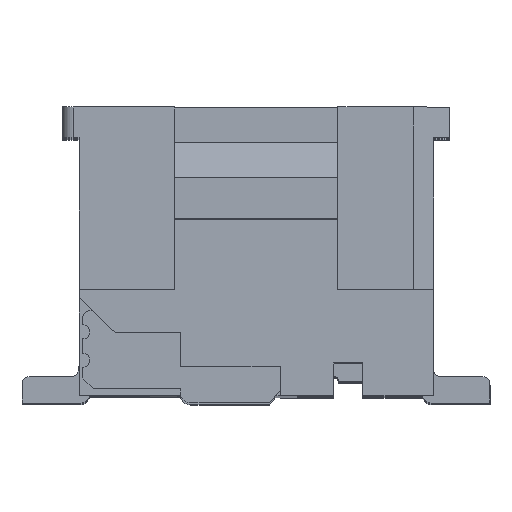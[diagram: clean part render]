
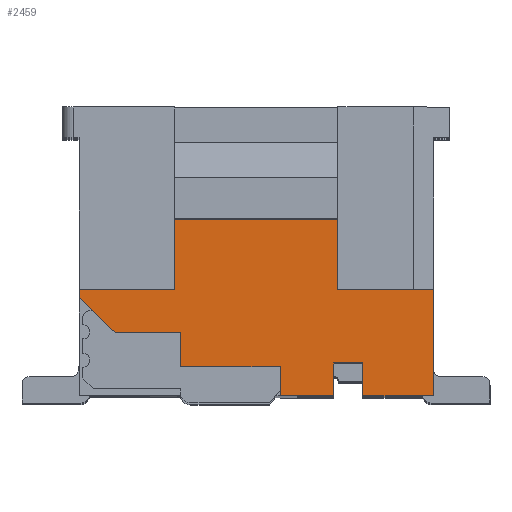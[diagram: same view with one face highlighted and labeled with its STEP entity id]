
A CAD part, top view. The second image highlights one B-rep face of the part: STEP entity #2459.
In plain terms, the highlighted planar face has unit normal (0, 0, 1).
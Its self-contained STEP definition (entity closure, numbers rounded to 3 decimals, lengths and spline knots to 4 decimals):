
#2459=ADVANCED_FACE('',(#6829),#4886,.F.);
#4886=PLANE('',#53395);
#6829=FACE_OUTER_BOUND('',#9325,.T.);
#9325=EDGE_LOOP('',(#13263,#13264,#13265,#13266,#13267,#13268,#13269,#13270,
#13271,#13272,#13273,#13274,#13275,#13276,#13277,#13278,#13279));
#13263=ORIENTED_EDGE('',*,*,#32868,.T.);
#13264=ORIENTED_EDGE('',*,*,#33209,.F.);
#13265=ORIENTED_EDGE('',*,*,#33277,.F.);
#13266=ORIENTED_EDGE('',*,*,#33213,.F.);
#13267=ORIENTED_EDGE('',*,*,#32858,.F.);
#13268=ORIENTED_EDGE('',*,*,#32856,.F.);
#13269=ORIENTED_EDGE('',*,*,#32854,.F.);
#13270=ORIENTED_EDGE('',*,*,#33119,.F.);
#13271=ORIENTED_EDGE('',*,*,#33278,.F.);
#13272=ORIENTED_EDGE('',*,*,#33123,.F.);
#13273=ORIENTED_EDGE('',*,*,#32852,.F.);
#13274=ORIENTED_EDGE('',*,*,#32849,.F.);
#13275=ORIENTED_EDGE('',*,*,#33276,.F.);
#13276=ORIENTED_EDGE('',*,*,#33279,.F.);
#13277=ORIENTED_EDGE('',*,*,#33280,.F.);
#13278=ORIENTED_EDGE('',*,*,#32861,.T.);
#13279=ORIENTED_EDGE('',*,*,#32842,.T.);
#27555=VERTEX_POINT('',#71919);
#27556=VERTEX_POINT('',#71921);
#27558=VERTEX_POINT('',#71927);
#27562=VERTEX_POINT('',#71934);
#27563=VERTEX_POINT('',#71938);
#27565=VERTEX_POINT('',#71944);
#27566=VERTEX_POINT('',#71946);
#27567=VERTEX_POINT('',#71950);
#27568=VERTEX_POINT('',#71954);
#27569=VERTEX_POINT('',#71960);
#27573=VERTEX_POINT('',#71974);
#27755=VERTEX_POINT('',#72488);
#27756=VERTEX_POINT('',#72492);
#27814=VERTEX_POINT('',#72665);
#27817=VERTEX_POINT('',#72673);
#27848=VERTEX_POINT('',#72790);
#27849=VERTEX_POINT('',#72796);
#32842=EDGE_CURVE('',#27556,#27555,#40492,.T.);
#32849=EDGE_CURVE('',#27562,#27558,#40499,.T.);
#32852=EDGE_CURVE('',#27558,#27563,#40502,.T.);
#32854=EDGE_CURVE('',#27565,#27566,#40504,.T.);
#32856=EDGE_CURVE('',#27566,#27567,#40506,.T.);
#32858=EDGE_CURVE('',#27567,#27568,#40508,.T.);
#32861=EDGE_CURVE('',#27569,#27556,#40511,.T.);
#32868=EDGE_CURVE('',#27555,#27573,#40518,.T.);
#33119=EDGE_CURVE('',#27755,#27565,#40721,.T.);
#33123=EDGE_CURVE('',#27563,#27756,#40725,.T.);
#33209=EDGE_CURVE('',#27814,#27573,#40809,.T.);
#33213=EDGE_CURVE('',#27568,#27817,#40813,.T.);
#33276=EDGE_CURVE('',#27848,#27562,#40876,.T.);
#33277=EDGE_CURVE('',#27817,#27814,#40877,.T.);
#33278=EDGE_CURVE('',#27756,#27755,#40878,.T.);
#33279=EDGE_CURVE('',#27849,#27848,#40879,.T.);
#33280=EDGE_CURVE('',#27569,#27849,#40880,.T.);
#40492=LINE('',#71920,#46899);
#40499=LINE('',#71935,#46906);
#40502=LINE('',#71941,#46909);
#40504=LINE('',#71945,#46911);
#40506=LINE('',#71949,#46913);
#40508=LINE('',#71953,#46915);
#40511=LINE('',#71959,#46918);
#40518=LINE('',#71973,#46925);
#40721=LINE('',#72489,#47128);
#40725=LINE('',#72497,#47132);
#40809=LINE('',#72664,#47216);
#40813=LINE('',#72672,#47220);
#40876=LINE('',#72791,#47283);
#40877=LINE('',#72793,#47284);
#40878=LINE('',#72794,#47285);
#40879=LINE('',#72795,#47286);
#40880=LINE('',#72797,#47287);
#46899=VECTOR('',#57756,1.);
#46906=VECTOR('',#57765,1.);
#46909=VECTOR('',#57770,1.);
#46911=VECTOR('',#57774,1.);
#46913=VECTOR('',#57778,1.);
#46915=VECTOR('',#57782,1.);
#46918=VECTOR('',#57789,1.);
#46925=VECTOR('',#57802,1.);
#47128=VECTOR('',#58241,1.);
#47132=VECTOR('',#58247,1.);
#47216=VECTOR('',#58387,1.);
#47220=VECTOR('',#58393,1.);
#47283=VECTOR('',#58504,1.);
#47284=VECTOR('',#58507,1.);
#47285=VECTOR('',#58508,1.);
#47286=VECTOR('',#58509,1.);
#47287=VECTOR('',#58510,1.);
#53395=AXIS2_PLACEMENT_3D('',#72798,#58511,#58512);
#57756=DIRECTION('',(-1.,0.,0.));
#57765=DIRECTION('',(0.,1.,0.));
#57770=DIRECTION('',(-1.,0.,0.));
#57774=DIRECTION('',(-1.,0.,0.));
#57778=DIRECTION('',(0.,1.,0.));
#57782=DIRECTION('',(-1.,0.,0.));
#57789=DIRECTION('',(0.,1.,0.));
#57802=DIRECTION('',(0.,-1.,0.));
#58241=DIRECTION('',(0.,1.,0.));
#58247=DIRECTION('',(0.,-1.,0.));
#58387=DIRECTION('',(1.,0.,0.));
#58393=DIRECTION('',(-0.719,0.695,0.));
#58504=DIRECTION('',(-1.,0.,0.));
#58507=DIRECTION('',(0.,1.,0.));
#58508=DIRECTION('',(-1.,0.,0.));
#58509=DIRECTION('',(0.,-1.,0.));
#58510=DIRECTION('',(1.,0.,0.));
#58511=DIRECTION('',(0.,0.,-1.));
#58512=DIRECTION('',(1.,0.,0.));
#71919=CARTESIAN_POINT('',(-2.6606,0.0751,7.2));
#71920=CARTESIAN_POINT('',(-2.6606,0.0751,7.2));
#71921=CARTESIAN_POINT('',(-0.3606,0.0751,7.2));
#71927=CARTESIAN_POINT('',(-0.0106,-1.9549,7.2));
#71934=CARTESIAN_POINT('',(-0.0106,-2.4149,7.2));
#71935=CARTESIAN_POINT('',(-0.0106,-2.4149,7.2));
#71938=CARTESIAN_POINT('',(-0.4206,-1.9549,7.2));
#71941=CARTESIAN_POINT('',(-0.0106,-1.9549,7.2));
#71944=CARTESIAN_POINT('',(-1.1732,-2.0049,7.2));
#71945=CARTESIAN_POINT('',(-2.5832,-2.0049,7.2));
#71946=CARTESIAN_POINT('',(-2.5832,-2.0049,7.2));
#71949=CARTESIAN_POINT('',(-2.5832,-1.5249,7.2));
#71950=CARTESIAN_POINT('',(-2.5832,-1.5249,7.2));
#71953=CARTESIAN_POINT('',(-3.5032,-1.5249,7.2));
#71954=CARTESIAN_POINT('',(-3.5032,-1.5249,7.2));
#71959=CARTESIAN_POINT('',(-0.3606,0.0751,7.2));
#71960=CARTESIAN_POINT('',(-0.3606,-0.9149,7.2));
#71973=CARTESIAN_POINT('',(-2.6606,0.0751,7.2));
#71974=CARTESIAN_POINT('',(-2.6606,-0.9149,7.2));
#72488=CARTESIAN_POINT('',(-1.1732,-2.4149,7.2));
#72489=CARTESIAN_POINT('',(-1.1732,-2.0049,7.2));
#72492=CARTESIAN_POINT('',(-0.4206,-2.4149,7.2));
#72497=CARTESIAN_POINT('',(-0.4206,-1.9549,7.2));
#72664=CARTESIAN_POINT('',(-5.2806,-0.9149,7.2));
#72665=CARTESIAN_POINT('',(-4.0106,-0.9149,7.2));
#72672=CARTESIAN_POINT('',(-4.0106,-1.0349,7.2));
#72673=CARTESIAN_POINT('',(-4.0106,-1.0349,7.2));
#72790=CARTESIAN_POINT('',(0.9894,-2.4149,7.2));
#72791=CARTESIAN_POINT('',(0.9894,-2.4149,7.2));
#72793=CARTESIAN_POINT('',(-4.0106,-2.4149,7.2));
#72794=CARTESIAN_POINT('',(-0.4206,-2.4149,7.2));
#72795=CARTESIAN_POINT('',(0.9894,1.2203,7.2));
#72796=CARTESIAN_POINT('',(0.9894,-0.9149,7.2));
#72797=CARTESIAN_POINT('',(-5.2806,-0.9149,7.2));
#72798=CARTESIAN_POINT('',(-5.2806,-0.9149,7.2));
